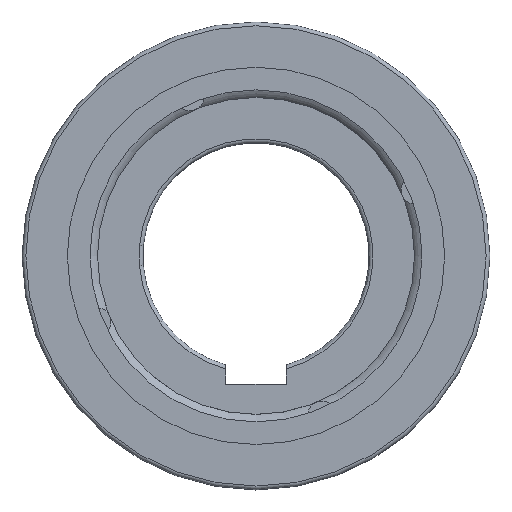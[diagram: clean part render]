
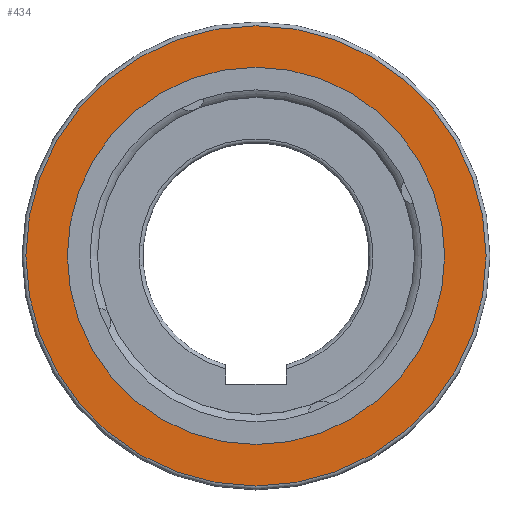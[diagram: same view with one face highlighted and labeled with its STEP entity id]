
A CAD part, top view. The second image highlights one B-rep face of the part: STEP entity #434.
In plain terms, the highlighted planar face has unit normal (0, 0, 1).
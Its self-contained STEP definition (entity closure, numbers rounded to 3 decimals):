
#315=PLANE('',#1409);
#366=FACE_BOUND('',#574,.T.);
#367=FACE_BOUND('',#575,.T.);
#434=ADVANCED_FACE('',(#366,#367),#315,.T.);
#574=EDGE_LOOP('',(#747));
#575=EDGE_LOOP('',(#748));
#675=CIRCLE('',#1402,25.);
#679=CIRCLE('',#1408,30.5);
#747=ORIENTED_EDGE('',*,*,#1121,.T.);
#748=ORIENTED_EDGE('',*,*,#1117,.F.);
#1015=VERTEX_POINT('',#1964);
#1019=VERTEX_POINT('',#1974);
#1117=EDGE_CURVE('',#1015,#1015,#675,.T.);
#1121=EDGE_CURVE('',#1019,#1019,#679,.T.);
#1402=AXIS2_PLACEMENT_3D('',#1963,#1549,#1550);
#1408=AXIS2_PLACEMENT_3D('',#1973,#1561,#1562);
#1409=AXIS2_PLACEMENT_3D('',#1975,#1563,#1564);
#1549=DIRECTION('',(0.,0.,1.));
#1550=DIRECTION('',(1.,0.,0.));
#1561=DIRECTION('',(0.,0.,1.));
#1562=DIRECTION('',(1.,0.,0.));
#1563=DIRECTION('',(0.,0.,1.));
#1564=DIRECTION('',(1.,0.,0.));
#1963=CARTESIAN_POINT('',(0.,0.,16.));
#1964=CARTESIAN_POINT('',(25.,0.,16.));
#1973=CARTESIAN_POINT('',(0.,0.,16.));
#1974=CARTESIAN_POINT('',(30.5,0.,16.));
#1975=CARTESIAN_POINT('',(0.,0.,16.));
